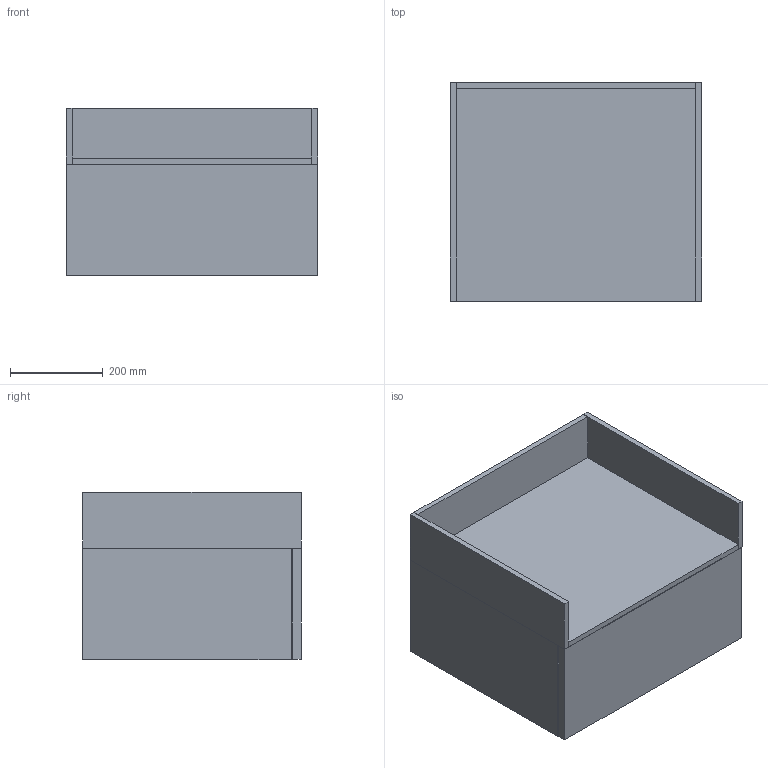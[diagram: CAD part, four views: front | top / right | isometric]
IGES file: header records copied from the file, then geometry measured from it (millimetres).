
Start section: Data from Parasolid IGES Translator 19.0.9, Copyright(c) 2006 Siemens PL M Software. All Rights Reserved.
Global section: file name: noorth-SI-H 36 D 47 W 54_8357.igs; native system: By Siemens PLM Incorporated; preprocessor: XPlus GENERIC/IGES 19.0.9; author: Noname; organization: Noname; date: 20200601.094202; units: metre
Bounding box: 540.01 x 470 x 360 mm (x, y, z)
Volume: 18367508.7 mm3; surface area: 2832064.5 mm2
Topology: 10 solids, 10 shells, 60 faces, 120 edges, 80 vertices
Faces by surface type: plane 60
